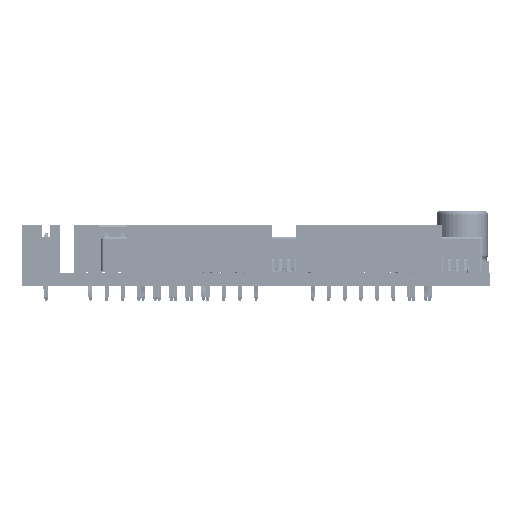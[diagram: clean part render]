
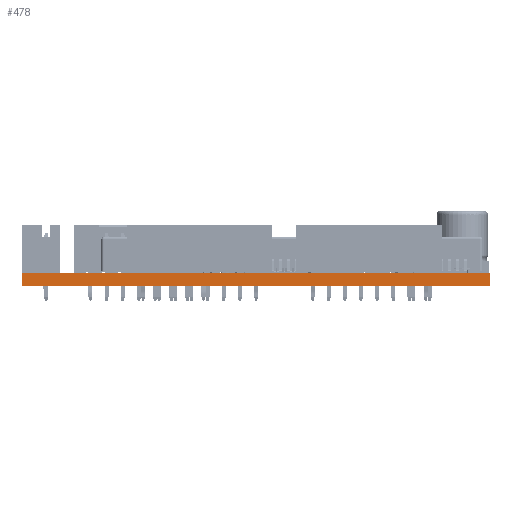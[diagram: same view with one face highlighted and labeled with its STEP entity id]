
A CAD part, front view. The second image highlights one B-rep face of the part: STEP entity #478.
In plain terms, the highlighted planar face has unit normal (0, -1, 0).
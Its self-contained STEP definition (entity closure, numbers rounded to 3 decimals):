
#422 = VERTEX_POINT('',#423);
#423 = CARTESIAN_POINT('',(57.987,58.013,1.6));
#429 = EDGE_CURVE('',#430,#422,#432,.T.);
#430 = VERTEX_POINT('',#431);
#431 = CARTESIAN_POINT('',(57.987,58.013,0.));
#432 = LINE('',#433,#434);
#433 = CARTESIAN_POINT('',(57.987,58.013,0.));
#434 = VECTOR('',#435,1.);
#435 = DIRECTION('',(0.,0.,1.));
#478 = ADVANCED_FACE('',(#479),#504,.T.);
#479 = FACE_BOUND('',#480,.T.);
#480 = EDGE_LOOP('',(#481,#482,#490,#498));
#481 = ORIENTED_EDGE('',*,*,#429,.T.);
#482 = ORIENTED_EDGE('',*,*,#483,.T.);
#483 = EDGE_CURVE('',#422,#484,#486,.T.);
#484 = VERTEX_POINT('',#485);
#485 = CARTESIAN_POINT('',(0.013,58.013,
    1.6));
#486 = LINE('',#487,#488);
#487 = CARTESIAN_POINT('',(57.987,58.013,1.6));
#488 = VECTOR('',#489,1.);
#489 = DIRECTION('',(-1.,0.,0.));
#490 = ORIENTED_EDGE('',*,*,#491,.F.);
#491 = EDGE_CURVE('',#492,#484,#494,.T.);
#492 = VERTEX_POINT('',#493);
#493 = CARTESIAN_POINT('',(0.013,58.013,0.));
#494 = LINE('',#495,#496);
#495 = CARTESIAN_POINT('',(0.013,58.013,0.));
#496 = VECTOR('',#497,1.);
#497 = DIRECTION('',(0.,0.,1.));
#498 = ORIENTED_EDGE('',*,*,#499,.F.);
#499 = EDGE_CURVE('',#430,#492,#500,.T.);
#500 = LINE('',#501,#502);
#501 = CARTESIAN_POINT('',(57.987,58.013,0.));
#502 = VECTOR('',#503,1.);
#503 = DIRECTION('',(-1.,0.,0.));
#504 = PLANE('',#505);
#505 = AXIS2_PLACEMENT_3D('',#506,#507,#508);
#506 = CARTESIAN_POINT('',(57.987,58.013,0.));
#507 = DIRECTION('',(0.,-1.,0.));
#508 = DIRECTION('',(-1.,0.,0.));
